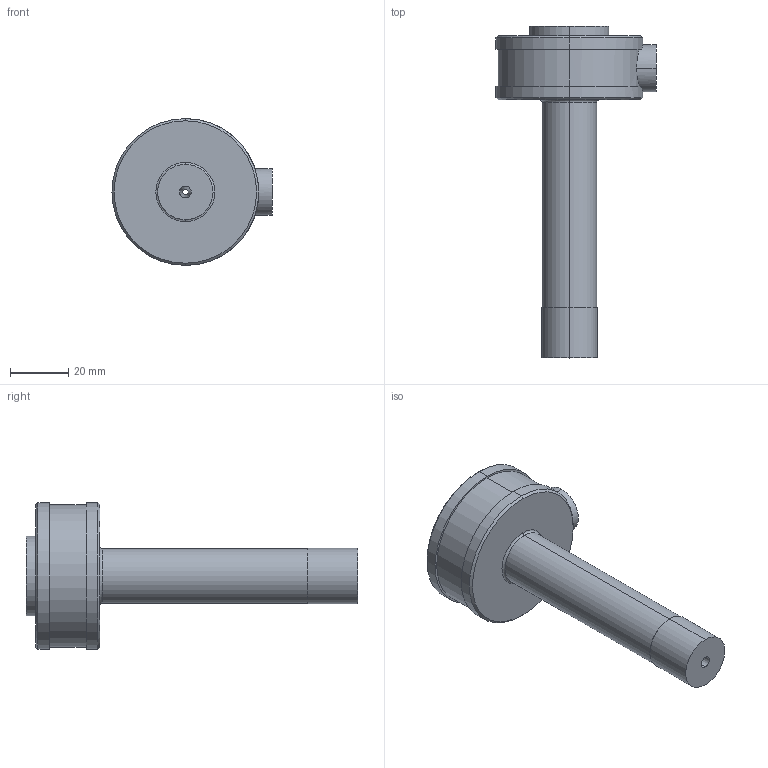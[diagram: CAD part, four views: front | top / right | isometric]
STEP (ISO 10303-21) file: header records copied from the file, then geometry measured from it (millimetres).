
FILE_DESCRIPTION (( 'STEP AP203' ), '1' );
FILE_NAME ('SB030028.STEP', '2009-05-05T17:41:59', ( 'Frank J. Eigler' ), ( 'DME' ), 'SwSTEP 2.0', 'SolidWorks 2009', '' );
FILE_SCHEMA (( 'CONFIG_CONTROL_DESIGN' ));
Length unit declared in the file: inch
Products named in the file (1): SB030028
Bounding box: 55.12 x 114.2 x 50.55 mm (x, y, z)
Volume: 68406.6 mm3; surface area: 14919.1 mm2
Topology: 1 solids, 1 shells, 37 faces, 92 edges, 58 vertices
Faces by surface type: cylinder 17, plane 8, cone 6, sphere 4, torus 2
Entity records: 1277 total; most frequent: CARTESIAN_POINT 278, DIRECTION 218, ORIENTED_EDGE 180, AXIS2_PLACEMENT_3D 96, EDGE_CURVE 90, VERTEX_POINT 58, CIRCLE 58, EDGE_LOOP 42
